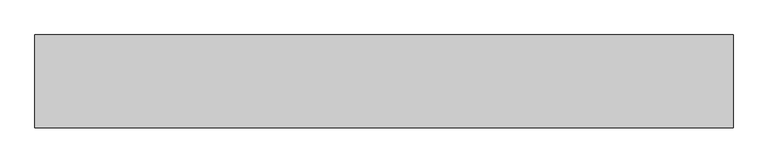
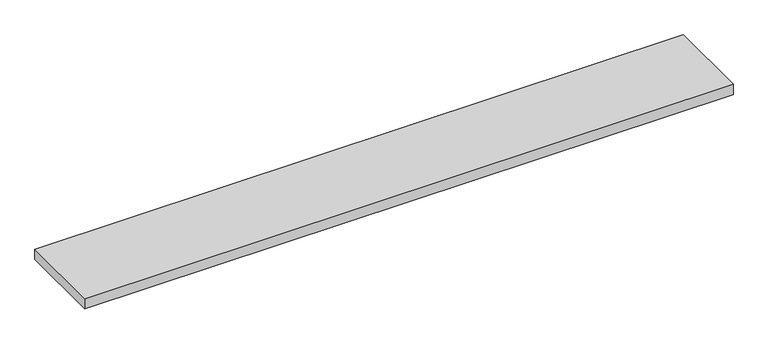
"""IFC4 building model written with IfcOpenShell, lengths in millimetres: proxy geometry, Vita_Решетка : РАП_Алюминиевая продольная."""

from ifc_helpers import new_model, si_unit, frame, origin, place, context, project, spatial, polyline, outline, extrude, source, transform, mapped, element, save


def mechanical_equipment_b469c673(model_context):
    return source(origin(), model_context, "Body", "SweptSolid", [
        extrude(outline(polyline([(-599.0, -112.8), (599.0, -112.8), (599.0, -272.2), (-599.0, -272.2), (-599.0, -112.8)])), frame((0.0, 0.0, 259.83), z_axis=(0.0, 0.0, 1.0), x_axis=(1.0, 0.0, 0.0)), (0.0, 0.0, 1.0), 20.17),
    ])


if __name__ == "__main__":
    model = new_model("IFC4")
    model_context = context("Model", 3, world=origin())
    ifc_project = project(units=[si_unit("LENGTHUNIT", "METRE", prefix="MILLI")], contexts=[model_context])
    site = spatial("IfcSite", under=ifc_project)
    building = spatial("IfcBuilding", under=site)
    placement = place(None, origin())
    mechanical_equipment_shape = mechanical_equipment_b469c673(model_context)
    element("IfcBuildingElementProxy", 1, Name="Vita_Решетка : РАП_Алюминиевая продольная", ObjectType="Vita_Решетка : РАП_Алюминиевая продольная", at=placement, inside=building, context=model_context, shape_type="MappedRepresentation", body=[
        mapped(mechanical_equipment_shape, transform((0.0, 0.0, 0.0), x_axis=(1.0, 0.0, 0.0), y_axis=(0.0, 1.0, 0.0), z_axis=(0.0, 0.0, 1.0))),
    ])
    save(model, "model.ifc")
